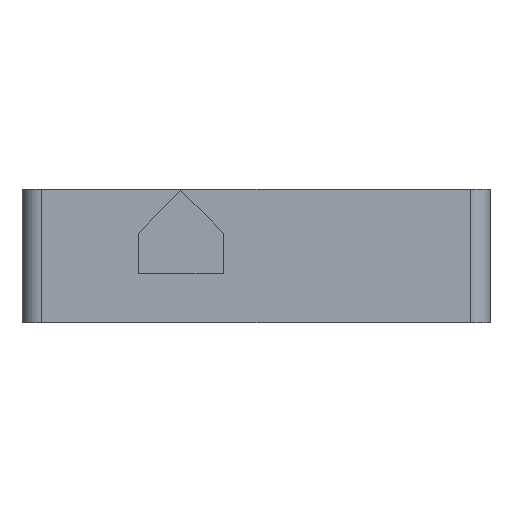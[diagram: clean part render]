
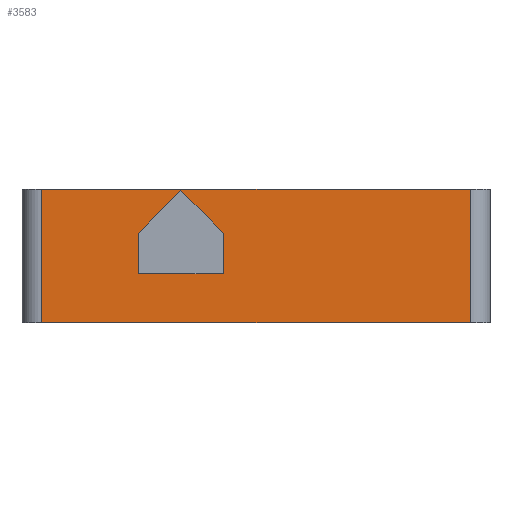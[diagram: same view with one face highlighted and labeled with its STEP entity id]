
A CAD part, left-side view. The second image highlights one B-rep face of the part: STEP entity #3583.
In plain terms, the highlighted planar face has unit normal (-1, 0, 0).
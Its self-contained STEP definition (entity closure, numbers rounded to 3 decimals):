
#44 = PLANE('',#45);
#45 = AXIS2_PLACEMENT_3D('',#46,#47,#48);
#46 = CARTESIAN_POINT('',(97.1,-71.6,41.));
#47 = DIRECTION('',(-0.,-0.,1.));
#48 = DIRECTION('',(1.,0.,0.));
#100 = PLANE('',#101);
#101 = AXIS2_PLACEMENT_3D('',#102,#103,#104);
#102 = CARTESIAN_POINT('',(97.1,-71.6,0.));
#103 = DIRECTION('',(0.,0.,1.));
#104 = DIRECTION('',(1.,0.,0.));
#323 = VERTEX_POINT('',#324);
#324 = CARTESIAN_POINT('',(-97.1,-65.6,41.));
#339 = CYLINDRICAL_SURFACE('',#340,6.);
#340 = AXIS2_PLACEMENT_3D('',#341,#342,#343);
#341 = CARTESIAN_POINT('',(-91.1,-65.6,0.));
#342 = DIRECTION('',(-0.,-0.,1.));
#343 = DIRECTION('',(-1.,-0.,-0.));
#351 = EDGE_CURVE('',#323,#352,#354,.T.);
#352 = VERTEX_POINT('',#353);
#353 = CARTESIAN_POINT('',(-97.1,65.6,41.));
#354 = SURFACE_CURVE('',#355,(#359,#366),.PCURVE_S1.);
#355 = LINE('',#356,#357);
#356 = CARTESIAN_POINT('',(-97.1,-71.6,41.));
#357 = VECTOR('',#358,1.);
#358 = DIRECTION('',(-0.,1.,0.));
#359 = PCURVE('',#44,#360);
#360 = DEFINITIONAL_REPRESENTATION('',(#361),#365);
#361 = LINE('',#362,#363);
#362 = CARTESIAN_POINT('',(-194.2,0.));
#363 = VECTOR('',#364,1.);
#364 = DIRECTION('',(0.,1.));
#365 = ( GEOMETRIC_REPRESENTATION_CONTEXT(2) 
PARAMETRIC_REPRESENTATION_CONTEXT() REPRESENTATION_CONTEXT('2D SPACE',''
  ) );
#366 = PCURVE('',#367,#372);
#367 = PLANE('',#368);
#368 = AXIS2_PLACEMENT_3D('',#369,#370,#371);
#369 = CARTESIAN_POINT('',(-97.1,-71.6,0.));
#370 = DIRECTION('',(-1.,-0.,0.));
#371 = DIRECTION('',(0.,0.,-1.));
#372 = DEFINITIONAL_REPRESENTATION('',(#373),#377);
#373 = LINE('',#374,#375);
#374 = CARTESIAN_POINT('',(-41.,-0.));
#375 = VECTOR('',#376,1.);
#376 = DIRECTION('',(-0.,-1.));
#377 = ( GEOMETRIC_REPRESENTATION_CONTEXT(2) 
PARAMETRIC_REPRESENTATION_CONTEXT() REPRESENTATION_CONTEXT('2D SPACE',''
  ) );
#400 = CYLINDRICAL_SURFACE('',#401,6.);
#401 = AXIS2_PLACEMENT_3D('',#402,#403,#404);
#402 = CARTESIAN_POINT('',(-91.1,65.6,0.));
#403 = DIRECTION('',(-0.,-0.,1.));
#404 = DIRECTION('',(-1.,-0.,-0.));
#965 = VERTEX_POINT('',#966);
#966 = CARTESIAN_POINT('',(-97.1,-65.6,0.));
#988 = EDGE_CURVE('',#965,#989,#991,.T.);
#989 = VERTEX_POINT('',#990);
#990 = CARTESIAN_POINT('',(-97.1,65.6,0.));
#991 = SURFACE_CURVE('',#992,(#996,#1003),.PCURVE_S1.);
#992 = LINE('',#993,#994);
#993 = CARTESIAN_POINT('',(-97.1,-71.6,0.));
#994 = VECTOR('',#995,1.);
#995 = DIRECTION('',(-0.,1.,0.));
#996 = PCURVE('',#100,#997);
#997 = DEFINITIONAL_REPRESENTATION('',(#998),#1002);
#998 = LINE('',#999,#1000);
#999 = CARTESIAN_POINT('',(-194.2,0.));
#1000 = VECTOR('',#1001,1.);
#1001 = DIRECTION('',(-0.,1.));
#1002 = ( GEOMETRIC_REPRESENTATION_CONTEXT(2) 
PARAMETRIC_REPRESENTATION_CONTEXT() REPRESENTATION_CONTEXT('2D SPACE',''
  ) );
#1003 = PCURVE('',#367,#1004);
#1004 = DEFINITIONAL_REPRESENTATION('',(#1005),#1009);
#1005 = LINE('',#1006,#1007);
#1006 = CARTESIAN_POINT('',(-0.,-0.));
#1007 = VECTOR('',#1008,1.);
#1008 = DIRECTION('',(-0.,-1.));
#1009 = ( GEOMETRIC_REPRESENTATION_CONTEXT(2) 
PARAMETRIC_REPRESENTATION_CONTEXT() REPRESENTATION_CONTEXT('2D SPACE',''
  ) );
#3536 = EDGE_CURVE('',#965,#323,#3537,.T.);
#3537 = SURFACE_CURVE('',#3538,(#3542,#3549),.PCURVE_S1.);
#3538 = LINE('',#3539,#3540);
#3539 = CARTESIAN_POINT('',(-97.1,-65.6,0.));
#3540 = VECTOR('',#3541,1.);
#3541 = DIRECTION('',(-0.,-0.,1.));
#3542 = PCURVE('',#339,#3543);
#3543 = DEFINITIONAL_REPRESENTATION('',(#3544),#3548);
#3544 = LINE('',#3545,#3546);
#3545 = CARTESIAN_POINT('',(0.,0.));
#3546 = VECTOR('',#3547,1.);
#3547 = DIRECTION('',(0.,1.));
#3548 = ( GEOMETRIC_REPRESENTATION_CONTEXT(2) 
PARAMETRIC_REPRESENTATION_CONTEXT() REPRESENTATION_CONTEXT('2D SPACE',''
  ) );
#3549 = PCURVE('',#367,#3550);
#3550 = DEFINITIONAL_REPRESENTATION('',(#3551),#3555);
#3551 = LINE('',#3552,#3553);
#3552 = CARTESIAN_POINT('',(-0.,-6.));
#3553 = VECTOR('',#3554,1.);
#3554 = DIRECTION('',(-1.,-0.));
#3555 = ( GEOMETRIC_REPRESENTATION_CONTEXT(2) 
PARAMETRIC_REPRESENTATION_CONTEXT() REPRESENTATION_CONTEXT('2D SPACE',''
  ) );
#3563 = EDGE_CURVE('',#989,#352,#3564,.T.);
#3564 = SURFACE_CURVE('',#3565,(#3569,#3576),.PCURVE_S1.);
#3565 = LINE('',#3566,#3567);
#3566 = CARTESIAN_POINT('',(-97.1,65.6,0.));
#3567 = VECTOR('',#3568,1.);
#3568 = DIRECTION('',(-0.,-0.,1.));
#3569 = PCURVE('',#400,#3570);
#3570 = DEFINITIONAL_REPRESENTATION('',(#3571),#3575);
#3571 = LINE('',#3572,#3573);
#3572 = CARTESIAN_POINT('',(-0.,0.));
#3573 = VECTOR('',#3574,1.);
#3574 = DIRECTION('',(-0.,1.));
#3575 = ( GEOMETRIC_REPRESENTATION_CONTEXT(2) 
PARAMETRIC_REPRESENTATION_CONTEXT() REPRESENTATION_CONTEXT('2D SPACE',''
  ) );
#3576 = PCURVE('',#367,#3577);
#3577 = DEFINITIONAL_REPRESENTATION('',(#3578),#3582);
#3578 = LINE('',#3579,#3580);
#3579 = CARTESIAN_POINT('',(-0.,-137.2));
#3580 = VECTOR('',#3581,1.);
#3581 = DIRECTION('',(-1.,-0.));
#3582 = ( GEOMETRIC_REPRESENTATION_CONTEXT(2) 
PARAMETRIC_REPRESENTATION_CONTEXT() REPRESENTATION_CONTEXT('2D SPACE',''
  ) );
#3583 = ADVANCED_FACE('',(#3584,#3590),#367,.T.);
#3584 = FACE_BOUND('',#3585,.F.);
#3585 = EDGE_LOOP('',(#3586,#3587,#3588,#3589));
#3586 = ORIENTED_EDGE('',*,*,#351,.F.);
#3587 = ORIENTED_EDGE('',*,*,#3536,.F.);
#3588 = ORIENTED_EDGE('',*,*,#988,.T.);
#3589 = ORIENTED_EDGE('',*,*,#3563,.T.);
#3590 = FACE_BOUND('',#3591,.F.);
#3591 = EDGE_LOOP('',(#3592,#3622,#3650,#3678,#3706));
#3592 = ORIENTED_EDGE('',*,*,#3593,.T.);
#3593 = EDGE_CURVE('',#3594,#3596,#3598,.T.);
#3594 = VERTEX_POINT('',#3595);
#3595 = CARTESIAN_POINT('',(-97.1,36.,27.5));
#3596 = VERTEX_POINT('',#3597);
#3597 = CARTESIAN_POINT('',(-97.1,36.,15.));
#3598 = SURFACE_CURVE('',#3599,(#3603,#3610),.PCURVE_S1.);
#3599 = LINE('',#3600,#3601);
#3600 = CARTESIAN_POINT('',(-97.1,36.,7.5));
#3601 = VECTOR('',#3602,1.);
#3602 = DIRECTION('',(-0.,-0.,-1.));
#3603 = PCURVE('',#367,#3604);
#3604 = DEFINITIONAL_REPRESENTATION('',(#3605),#3609);
#3605 = LINE('',#3606,#3607);
#3606 = CARTESIAN_POINT('',(-7.5,-107.6));
#3607 = VECTOR('',#3608,1.);
#3608 = DIRECTION('',(1.,-0.));
#3609 = ( GEOMETRIC_REPRESENTATION_CONTEXT(2) 
PARAMETRIC_REPRESENTATION_CONTEXT() REPRESENTATION_CONTEXT('2D SPACE',''
  ) );
#3610 = PCURVE('',#3611,#3616);
#3611 = PLANE('',#3612);
#3612 = AXIS2_PLACEMENT_3D('',#3613,#3614,#3615);
#3613 = CARTESIAN_POINT('',(-93.3,36.,15.));
#3614 = DIRECTION('',(-0.,-1.,-0.));
#3615 = DIRECTION('',(0.,0.,-1.));
#3616 = DEFINITIONAL_REPRESENTATION('',(#3617),#3621);
#3617 = LINE('',#3618,#3619);
#3618 = CARTESIAN_POINT('',(7.5,-3.8));
#3619 = VECTOR('',#3620,1.);
#3620 = DIRECTION('',(1.,-0.));
#3621 = ( GEOMETRIC_REPRESENTATION_CONTEXT(2) 
PARAMETRIC_REPRESENTATION_CONTEXT() REPRESENTATION_CONTEXT('2D SPACE',''
  ) );
#3622 = ORIENTED_EDGE('',*,*,#3623,.T.);
#3623 = EDGE_CURVE('',#3596,#3624,#3626,.T.);
#3624 = VERTEX_POINT('',#3625);
#3625 = CARTESIAN_POINT('',(-97.1,10.,15.));
#3626 = SURFACE_CURVE('',#3627,(#3631,#3638),.PCURVE_S1.);
#3627 = LINE('',#3628,#3629);
#3628 = CARTESIAN_POINT('',(-97.1,-30.8,15.));
#3629 = VECTOR('',#3630,1.);
#3630 = DIRECTION('',(-0.,-1.,-0.));
#3631 = PCURVE('',#367,#3632);
#3632 = DEFINITIONAL_REPRESENTATION('',(#3633),#3637);
#3633 = LINE('',#3634,#3635);
#3634 = CARTESIAN_POINT('',(-15.,-40.8));
#3635 = VECTOR('',#3636,1.);
#3636 = DIRECTION('',(-0.,1.));
#3637 = ( GEOMETRIC_REPRESENTATION_CONTEXT(2) 
PARAMETRIC_REPRESENTATION_CONTEXT() REPRESENTATION_CONTEXT('2D SPACE',''
  ) );
#3638 = PCURVE('',#3639,#3644);
#3639 = PLANE('',#3640);
#3640 = AXIS2_PLACEMENT_3D('',#3641,#3642,#3643);
#3641 = CARTESIAN_POINT('',(-93.3,10.,15.));
#3642 = DIRECTION('',(-0.,-0.,1.));
#3643 = DIRECTION('',(0.,-1.,0.));
#3644 = DEFINITIONAL_REPRESENTATION('',(#3645),#3649);
#3645 = LINE('',#3646,#3647);
#3646 = CARTESIAN_POINT('',(40.8,-3.8));
#3647 = VECTOR('',#3648,1.);
#3648 = DIRECTION('',(1.,-0.));
#3649 = ( GEOMETRIC_REPRESENTATION_CONTEXT(2) 
PARAMETRIC_REPRESENTATION_CONTEXT() REPRESENTATION_CONTEXT('2D SPACE',''
  ) );
#3650 = ORIENTED_EDGE('',*,*,#3651,.T.);
#3651 = EDGE_CURVE('',#3624,#3652,#3654,.T.);
#3652 = VERTEX_POINT('',#3653);
#3653 = CARTESIAN_POINT('',(-97.1,10.,27.5));
#3654 = SURFACE_CURVE('',#3655,(#3659,#3666),.PCURVE_S1.);
#3655 = LINE('',#3656,#3657);
#3656 = CARTESIAN_POINT('',(-97.1,10.,13.75));
#3657 = VECTOR('',#3658,1.);
#3658 = DIRECTION('',(-0.,-0.,1.));
#3659 = PCURVE('',#367,#3660);
#3660 = DEFINITIONAL_REPRESENTATION('',(#3661),#3665);
#3661 = LINE('',#3662,#3663);
#3662 = CARTESIAN_POINT('',(-13.75,-81.6));
#3663 = VECTOR('',#3664,1.);
#3664 = DIRECTION('',(-1.,-0.));
#3665 = ( GEOMETRIC_REPRESENTATION_CONTEXT(2) 
PARAMETRIC_REPRESENTATION_CONTEXT() REPRESENTATION_CONTEXT('2D SPACE',''
  ) );
#3666 = PCURVE('',#3667,#3672);
#3667 = PLANE('',#3668);
#3668 = AXIS2_PLACEMENT_3D('',#3669,#3670,#3671);
#3669 = CARTESIAN_POINT('',(-93.3,10.,27.5));
#3670 = DIRECTION('',(-0.,1.,-0.));
#3671 = DIRECTION('',(0.,0.,1.));
#3672 = DEFINITIONAL_REPRESENTATION('',(#3673),#3677);
#3673 = LINE('',#3674,#3675);
#3674 = CARTESIAN_POINT('',(-13.75,-3.8));
#3675 = VECTOR('',#3676,1.);
#3676 = DIRECTION('',(1.,-0.));
#3677 = ( GEOMETRIC_REPRESENTATION_CONTEXT(2) 
PARAMETRIC_REPRESENTATION_CONTEXT() REPRESENTATION_CONTEXT('2D SPACE',''
  ) );
#3678 = ORIENTED_EDGE('',*,*,#3679,.T.);
#3679 = EDGE_CURVE('',#3652,#3680,#3682,.T.);
#3680 = VERTEX_POINT('',#3681);
#3681 = CARTESIAN_POINT('',(-97.1,23.,40.5));
#3682 = SURFACE_CURVE('',#3683,(#3687,#3694),.PCURVE_S1.);
#3683 = LINE('',#3684,#3685);
#3684 = CARTESIAN_POINT('',(-97.1,-10.775,6.725));
#3685 = VECTOR('',#3686,1.);
#3686 = DIRECTION('',(-0.,0.707,0.707));
#3687 = PCURVE('',#367,#3688);
#3688 = DEFINITIONAL_REPRESENTATION('',(#3689),#3693);
#3689 = LINE('',#3690,#3691);
#3690 = CARTESIAN_POINT('',(-6.725,-60.825));
#3691 = VECTOR('',#3692,1.);
#3692 = DIRECTION('',(-0.707,-0.707));
#3693 = ( GEOMETRIC_REPRESENTATION_CONTEXT(2) 
PARAMETRIC_REPRESENTATION_CONTEXT() REPRESENTATION_CONTEXT('2D SPACE',''
  ) );
#3694 = PCURVE('',#3695,#3700);
#3695 = PLANE('',#3696);
#3696 = AXIS2_PLACEMENT_3D('',#3697,#3698,#3699);
#3697 = CARTESIAN_POINT('',(-93.3,23.,40.5));
#3698 = DIRECTION('',(-0.,0.707,-0.707));
#3699 = DIRECTION('',(0.,0.707,0.707));
#3700 = DEFINITIONAL_REPRESENTATION('',(#3701),#3705);
#3701 = LINE('',#3702,#3703);
#3702 = CARTESIAN_POINT('',(-47.765,-3.8));
#3703 = VECTOR('',#3704,1.);
#3704 = DIRECTION('',(1.,-0.));
#3705 = ( GEOMETRIC_REPRESENTATION_CONTEXT(2) 
PARAMETRIC_REPRESENTATION_CONTEXT() REPRESENTATION_CONTEXT('2D SPACE',''
  ) );
#3706 = ORIENTED_EDGE('',*,*,#3707,.T.);
#3707 = EDGE_CURVE('',#3680,#3594,#3708,.T.);
#3708 = SURFACE_CURVE('',#3709,(#3713,#3720),.PCURVE_S1.);
#3709 = LINE('',#3710,#3711);
#3710 = CARTESIAN_POINT('',(-97.1,15.975,47.525));
#3711 = VECTOR('',#3712,1.);
#3712 = DIRECTION('',(-0.,0.707,-0.707));
#3713 = PCURVE('',#367,#3714);
#3714 = DEFINITIONAL_REPRESENTATION('',(#3715),#3719);
#3715 = LINE('',#3716,#3717);
#3716 = CARTESIAN_POINT('',(-47.525,-87.575));
#3717 = VECTOR('',#3718,1.);
#3718 = DIRECTION('',(0.707,-0.707));
#3719 = ( GEOMETRIC_REPRESENTATION_CONTEXT(2) 
PARAMETRIC_REPRESENTATION_CONTEXT() REPRESENTATION_CONTEXT('2D SPACE',''
  ) );
#3720 = PCURVE('',#3721,#3726);
#3721 = PLANE('',#3722);
#3722 = AXIS2_PLACEMENT_3D('',#3723,#3724,#3725);
#3723 = CARTESIAN_POINT('',(-93.3,36.,27.5));
#3724 = DIRECTION('',(-0.,-0.707,-0.707));
#3725 = DIRECTION('',(0.,0.707,-0.707));
#3726 = DEFINITIONAL_REPRESENTATION('',(#3727),#3731);
#3727 = LINE('',#3728,#3729);
#3728 = CARTESIAN_POINT('',(-28.32,-3.8));
#3729 = VECTOR('',#3730,1.);
#3730 = DIRECTION('',(1.,-0.));
#3731 = ( GEOMETRIC_REPRESENTATION_CONTEXT(2) 
PARAMETRIC_REPRESENTATION_CONTEXT() REPRESENTATION_CONTEXT('2D SPACE',''
  ) );
